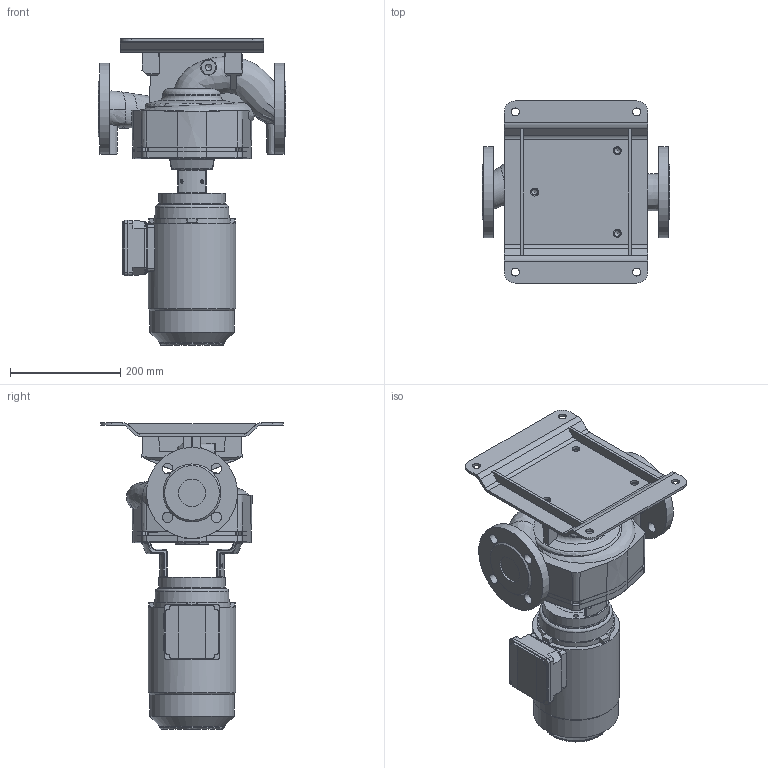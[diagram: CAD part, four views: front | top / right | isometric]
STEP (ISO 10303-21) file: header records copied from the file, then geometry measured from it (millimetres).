
FILE_DESCRIPTION (( 'STEP AP203' ), '1' );
FILE_NAME ('KI50-145_4_0,75kW.STEP', '2024-07-29T10:05:03', ( '' ), ( '' ), 'SwSTEP 2.0', 'SolidWorks 2023', '' );
FILE_SCHEMA (( 'CONFIG_CONTROL_DESIGN' ));
Length unit declared in the file: millimetre
Products named in the file (11): HMA3_80_2-4_solid; 230497; 230400; 230496; 230401; 220542; 230031; 220544; 230033; KI50-145_4_0,75kW; 230034
Assembly tree (11 placements, depth 3):
  KI50-145_4_0,75kW
    HMA3_80_2-4_solid
    230401
      230400
    230497
      230496
    220544
      220542
    230034
      230031
      230033  x2
Bounding box: 340 x 330.18 x 555.95 mm (x, y, z)
Volume: 12290454.1 mm3; surface area: 925763 mm2
Topology: 7 solids, 7 shells, 778 faces, 2006 edges, 1244 vertices
Faces by surface type: plane 272, cylinder 269, bspline 96, torus 68, cone 59, sphere 14
Full cylindrical faces by diameter (mm): 5 x12, 6 x3, 7 x8, 8 x4, 10.2 x7, 11.8 x4, 14 x4, 14.5 x7, 19 x8, 50 x2, 80 x1, 116 x1, 120 x2, 147 x1, 151 x1, 153.6 x1, 158.6 x1, 165 x2, 189 x1
Entity records: 38284 total; most frequent: CARTESIAN_POINT 19643, ORIENTED_EDGE 3648, DIRECTION 3511, EDGE_CURVE 1824, AXIS2_PLACEMENT_3D 1367, VERTEX_POINT 1188, EDGE_LOOP 970, FACE_OUTER_BOUND 844
